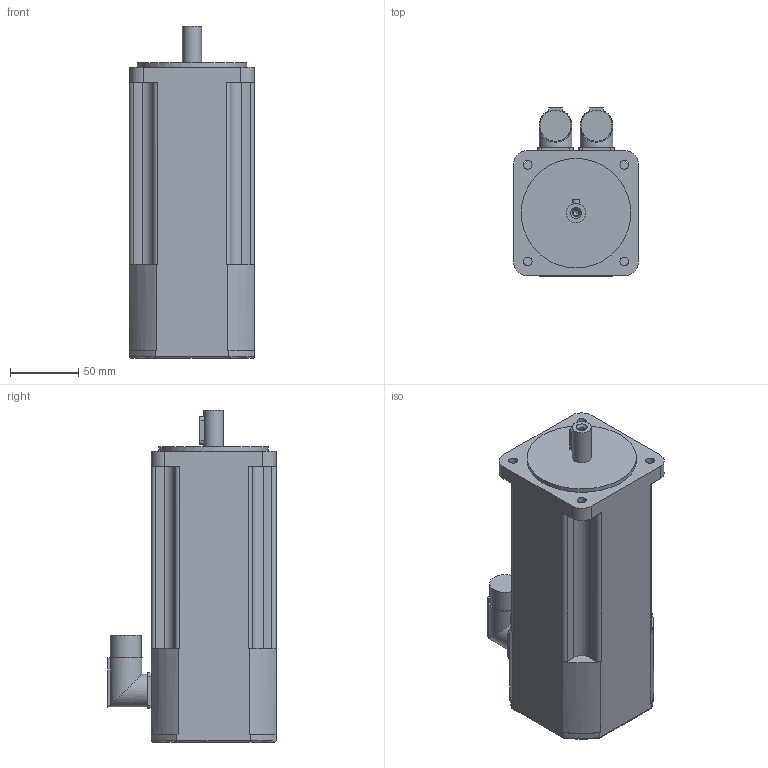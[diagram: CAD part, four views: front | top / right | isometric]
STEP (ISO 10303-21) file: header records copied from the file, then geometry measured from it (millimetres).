
FILE_DESCRIPTION(/* description */ (''),/* implementation_level */ '2;1');
FILE_NAME(/* name */ '\\Lafnas01\disegni\Archivi Lafert\3D\CAD 3D\MODELLI\Assiemi clienti\Serad\Modelli 3D Serad\B56I\Encoder\Enc With Brake\B56D6Ixx6BRx2033.ipt.stp',/* time_stamp */ '2015-09-07T10:49:40+02:00',/* author */ ('Pastrello Ylenia'),/* organization */ (''),/* preprocessor_version */ 'ST-DEVELOPER v15.6',/* originating_system */ 'Autodesk Inventor 2015',/* authorisation */ '');
FILE_SCHEMA (('AUTOMOTIVE_DESIGN { 1 0 10303 214 3 1 1 }'));
Length unit declared in the file: millimetre
Products named in the file (1): B56D6Ixx6BRx2033
Bounding box: 91.3 x 122.8 x 242.5 mm (x, y, z)
Volume: 1641680.8 mm3; surface area: 101002.4 mm2
Topology: 1 solids, 1 shells, 133 faces, 339 edges, 215 vertices
Faces by surface type: plane 74, cylinder 52, torus 4, cone 3
Full cylindrical faces by diameter (mm): 4.134 x1, 5.3 x1, 6.5 x4, 14 x1, 22.7 x2, 24 x2, 80 x1
Entity records: 4088 total; most frequent: CARTESIAN_POINT 804, DIRECTION 726, ORIENTED_EDGE 640, EDGE_CURVE 320, AXIS2_PLACEMENT_3D 282, VERTEX_POINT 212, EDGE_LOOP 164, LINE 162
